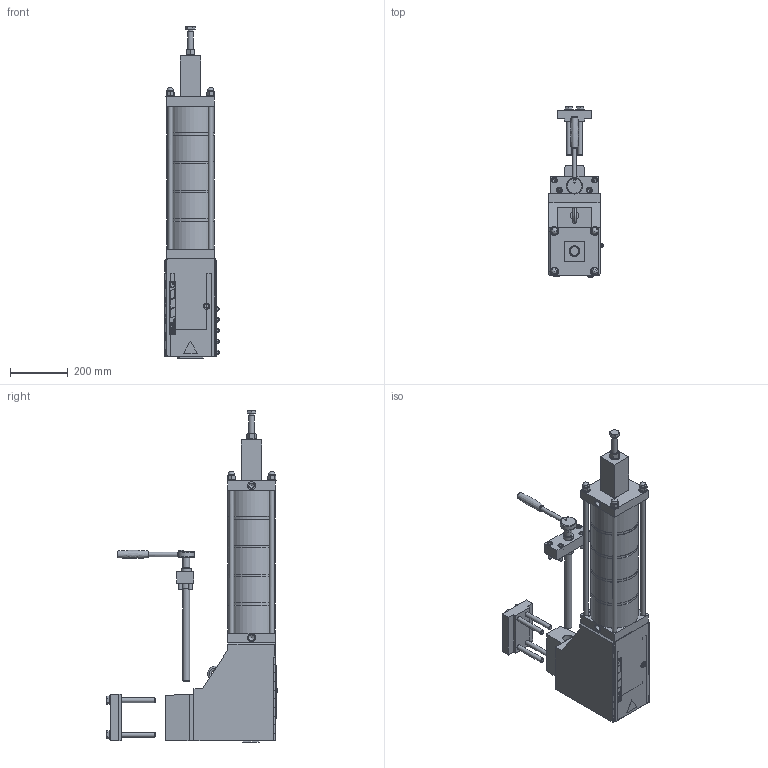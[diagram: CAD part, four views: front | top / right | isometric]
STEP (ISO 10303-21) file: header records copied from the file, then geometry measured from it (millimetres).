
FILE_DESCRIPTION(/* description */ (''),/* implementation_level */ '2;1');
FILE_NAME(/* name */ 'P:\Transfer Test\LP\Pressen_LP\LP Presseinheiten\PEH LP 56kN Hub60 G0600.stp',/* time_stamp */ '2020-11-12T13:07:41+01:00',/* author */ ('gsp'),/* organization */ (''),/* preprocessor_version */ 'ST-DEVELOPER v18',/* originating_system */ 'Autodesk Inventor 2020',/* authorisation */ '');
FILE_SCHEMA (('AUTOMOTIVE_DESIGN { 1 0 10303 214 3 1 1 }'));
Products named in the file (6): PEH LP 56kN Hub60 G0600; Spannplatte G0600; Führungseinheit_LP G0600_ohne_Schlitten_ANR18108; Schlittendummy_LP_G0600_ANR18109; LP_Zylinder_56kN_Hub60_ANR18152; Stellspindel G0600
Assembly tree (5 placements, depth 2):
  PEH LP 56kN Hub60 G0600
    Spannplatte G0600
    Führungseinheit_LP G0600_ohne_Schlitten_ANR18108
    Schlittendummy_LP_G0600_ANR18109
    LP_Zylinder_56kN_Hub60_ANR18152
    Stellspindel G0600
Bounding box: 188.72 x 594.57 x 1152.8 mm (x, y, z)
Volume: 27396576.2 mm3; surface area: 1547123.7 mm2
Topology: 7 solids, 43 shells, 6739 faces, 18118 edges, 12029 vertices
Faces by surface type: plane 3462, bspline 2563, cylinder 436, cone 230, torus 40, sphere 8
Full cylindrical faces by diameter (mm): 2 x6, 2.1 x4, 3 x12, 3.242 x4, 4 x4, 4.134 x2, 4.917 x1, 5 x2, 5.1 x4, 5.2 x2, 5.5 x4, 6.2 x3, 6.5 x1, 6.647 x6, 6.8 x16, 6.917 x1, 8 x13, 8.4 x10, 9 x2, 10 x36, 10.106 x1, 10.45 x52, 10.5 x4, 11.5 x4, 12 x4, 13 x3, 13.5 x4, 13.835 x10, 15 x4, 15.5 x1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
Entity records: 242197 total; most frequent: CARTESIAN_POINT 83958, ORIENTED_EDGE 36106, DIRECTION 22028, EDGE_CURVE 18053, VERTEX_POINT 12031, LINE 10930, VECTOR 10930, EDGE_LOOP 7505
